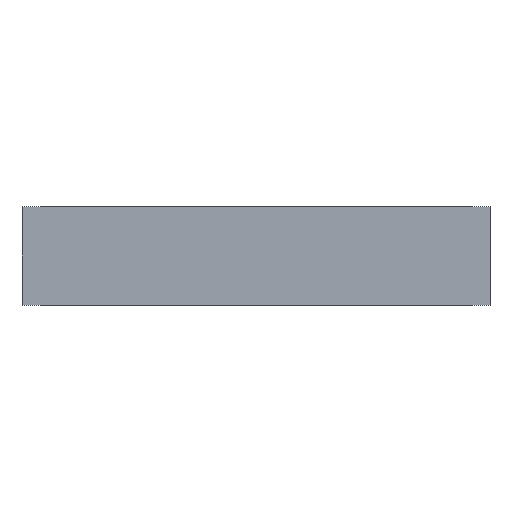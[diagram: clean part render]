
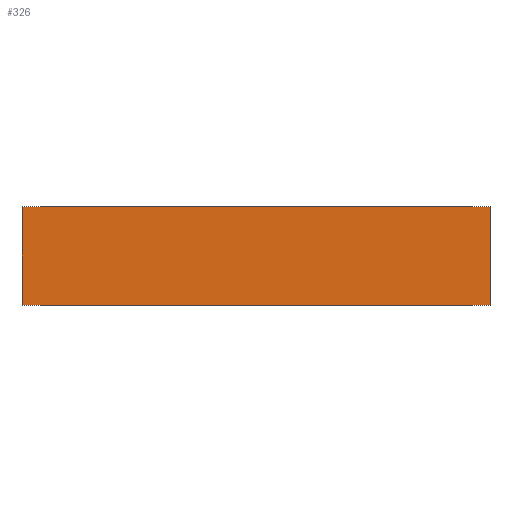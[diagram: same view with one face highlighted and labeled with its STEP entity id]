
A CAD part, front view. The second image highlights one B-rep face of the part: STEP entity #326.
In plain terms, the highlighted planar face has unit normal (0, -1, 0).
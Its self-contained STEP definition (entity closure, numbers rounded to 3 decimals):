
#6 = EDGE_CURVE ( 'NONE', #556, #578, #89, .T. ) ;
#20 = AXIS2_PLACEMENT_3D ( 'NONE', #451, #444, #443 ) ;
#27 = EDGE_CURVE ( 'NONE', #517, #556, #205, .T. ) ;
#32 = EDGE_CURVE ( 'NONE', #495, #578, #190, .T. ) ;
#43 = EDGE_CURVE ( 'NONE', #517, #495, #187, .T. ) ;
#89 = LINE ( 'NONE', #462, #218 ) ;
#126 = FACE_OUTER_BOUND ( 'NONE', #239, .T. ) ;
#174 = VECTOR ( 'NONE', #536, 1000. ) ;
#187 = LINE ( 'NONE', #541, #174 ) ;
#189 = VECTOR ( 'NONE', #560, 1000. ) ;
#190 = LINE ( 'NONE', #561, #189 ) ;
#196 = VECTOR ( 'NONE', #569, 1000. ) ;
#205 = LINE ( 'NONE', #574, #196 ) ;
#218 = VECTOR ( 'NONE', #445, 1000. ) ;
#239 = EDGE_LOOP ( 'NONE', ( #291, #292, #293, #294 ) ) ;
#291 = ORIENTED_EDGE ( 'NONE', *, *, #32, .T. ) ;
#292 = ORIENTED_EDGE ( 'NONE', *, *, #6, .F. ) ;
#293 = ORIENTED_EDGE ( 'NONE', *, *, #27, .F. ) ;
#294 = ORIENTED_EDGE ( 'NONE', *, *, #43, .T. ) ;
#326 = ADVANCED_FACE ( 'NONE', ( #126 ), #456, .F. ) ;
#364 = CARTESIAN_POINT ( 'NONE',  ( 154., 0., 0. ) ) ;
#372 = CARTESIAN_POINT ( 'NONE',  ( 154., 0., 65. ) ) ;
#385 = CARTESIAN_POINT ( 'NONE',  ( -154., 0., 65. ) ) ;
#390 = CARTESIAN_POINT ( 'NONE',  ( -154., 0., 0. ) ) ;
#443 = DIRECTION ( 'NONE',  ( -1., 0., 0. ) ) ;
#444 = DIRECTION ( 'NONE',  ( 0., 1., 0. ) ) ;
#445 = DIRECTION ( 'NONE',  ( 0., 0., -1. ) ) ;
#451 = CARTESIAN_POINT ( 'NONE',  ( -154., 0., 65. ) ) ;
#456 = PLANE ( 'NONE',  #20 ) ;
#462 = CARTESIAN_POINT ( 'NONE',  ( 154., 0., 65. ) ) ;
#495 = VERTEX_POINT ( 'NONE', #390 ) ;
#517 = VERTEX_POINT ( 'NONE', #385 ) ;
#536 = DIRECTION ( 'NONE',  ( 0., 0., -1. ) ) ;
#541 = CARTESIAN_POINT ( 'NONE',  ( -154., 0., 65. ) ) ;
#556 = VERTEX_POINT ( 'NONE', #372 ) ;
#560 = DIRECTION ( 'NONE',  ( 1., 0., 0. ) ) ;
#561 = CARTESIAN_POINT ( 'NONE',  ( -154., 0., 0. ) ) ;
#569 = DIRECTION ( 'NONE',  ( 1., 0., 0. ) ) ;
#574 = CARTESIAN_POINT ( 'NONE',  ( -154., 0., 65. ) ) ;
#578 = VERTEX_POINT ( 'NONE', #364 ) ;
